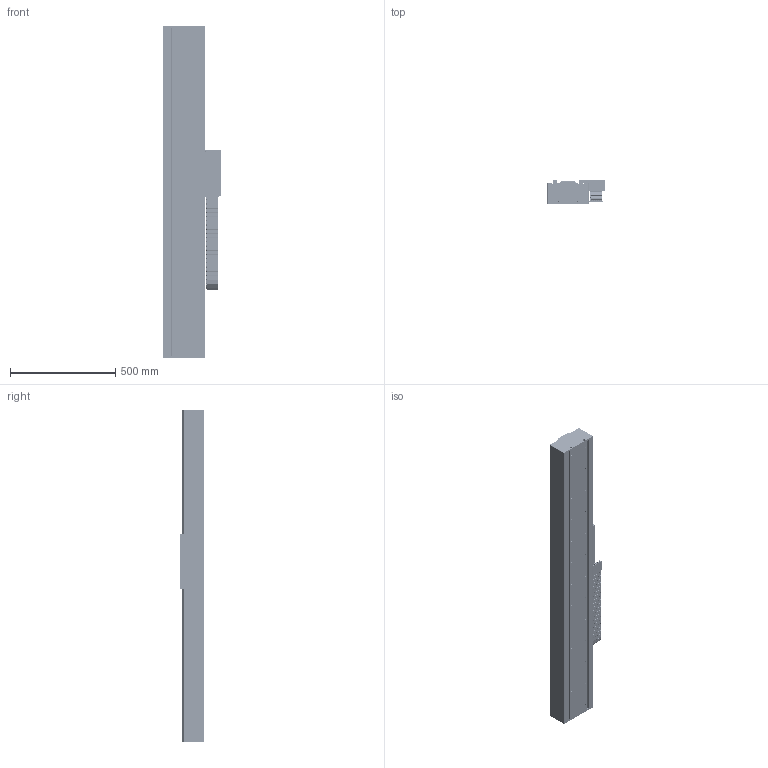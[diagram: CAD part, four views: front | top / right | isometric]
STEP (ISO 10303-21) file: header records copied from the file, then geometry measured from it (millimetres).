
FILE_DESCRIPTION (( 'STEP AP203' ), '1' );
FILE_NAME ('STF50200H-xC1B-Bxx.STEP', '2007-10-29T14:00:32', ( 'Yaskawa' ), ( 'Yaskawa' ), 'SwSTEP 2.0', 'SolidWorks 2007', '' );
FILE_SCHEMA (( 'CONFIG_CONTROL_DESIGN' ));
Products named in the file (58): SGLFM-50675AC; STF50 Large End Stop; STF50-001A F50-200 Carriage; SGLFW-50A200AP; STF50-005-R2 Cable Router; STCM-R1; RGH22B; STCM-006-R1 Upper E-chain Bracket; Serial Converter; 07.50.038.0_20; 07.50.038.0_34; STF50200H; 07.50.038.0_24; 07.50.038.0_25; 07.50.038.0_35; 07.50.038.0_41; 07.50.038.0_36; 07.50.038.0_42; 07.50.038.0_32; 07.50.038.0_31; STF50200H-xC1B-Bxx; STF50200 Base_STF50BM-008; SGLFM-50405AC; STF50-007 End Stop; Large Bumper; SSR20 Rail 820_1480; STF50-0200-R1 Carriage; SSR20W Block; STF50-003 Renishaw Encoder Bracket; STF50-004 Flag; STF50-002A-R1 F50-200 Carriage Horn; STCM-005-R1 Cable Assembly Cover; STCM-001-R2 Cable Bracket; STCM-002-R2 Cable Assembly Front; STCM-003 Cable Assembly Bottom; STCM-004 Cable Assembly Side; STF50-006 Endplate; STF50-009-03 Top Cover_H; STF50-10-03 Side COver_H; STCM-007 Lower E-Chain Bracket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
Assembly tree (88 placements, depth 4):
  STF50200H-xC1B-Bxx
    STF50200H
      07.50.038.0_26
      07.50.038.0_32  x12
      07.50.038.0_31  x10
      07.50.038.0_24
      07.50.038.0_35
      07.50.038.0_34
      07.50.038.0_39
      07.50.038.0_44
      07.50.038.0_45
      07.50.038.0_47
      07.50.038.0_37
      07.50.038.0_41
      07.50.038.0_27
      07.50.038.0_21
      07.50.038.0_29
      07.50.038.0_30
      07.50.038.0_36
      07.50.038.0_38
      07.50.038.0_20
      07.50.038.0_33
      07.50.038.0_25
      07.50.038.0_46
      07.50.038.0_43
      07.50.038.0_23
      07.50.038.0_28
      07.50.038.0_22
      07.50.038.0_40
      07.50.038.0_42
    SGLFM-50675AC
    STF50 Large End Stop  x4
      STF50-007 End Stop
      Large Bumper
    STF50-006 Endplate  x2
    STF50-0200-R1 Carriage
      SSR20W Block  x4
      STF50-002A-R1 F50-200 Carriage Horn  x2
      SGLFW-50A200AP
      RGH22B
      STF50-003 Renishaw Encoder Bracket
      STF50-005-R2 Cable Router
      STF50-004 Flag
      STF50-001A F50-200 Carriage
      STCM-R1
        STCM-003 Cable Assembly Bottom
        Serial Converter
        STCM-004 Cable Assembly Side
        STCM-006-R1 Upper E-chain Bracket
        STCM-005-R1 Cable Assembly Cover
        STCM-001-R2 Cable Bracket
        STCM-002-R2 Cable Assembly Front
    STCM-007 Lower E-Chain Bracket
    STF50-009-03 Top Cover_H
    SGLFM-50405AC  x2
    STF50200 Base_STF50BM-008
    STF50-10-03 Side COver_H  x2
    SSR20 Rail 820_1480  x2
Bounding box: 272.91 x 115 x 1579.05 mm (x, y, z)
Volume: 13604619.5 mm3; surface area: 3770477.7 mm2
Topology: 133 solids, 133 shells, 6369 faces, 16818 edges, 10776 vertices
Faces by surface type: plane 3195, cylinder 2706, cone 452, bspline 8, torus 8
Entity records: 137872 total; most frequent: DIRECTION 23346, CARTESIAN_POINT 22785, ORIENTED_EDGE 21672, EDGE_CURVE 10836, AXIS2_PLACEMENT_3D 8219, VERTEX_POINT 7100, VECTOR 6908, LINE 6908
